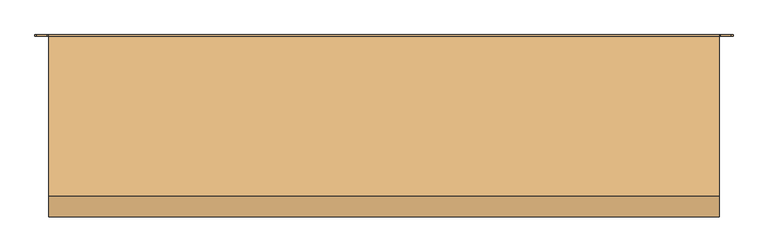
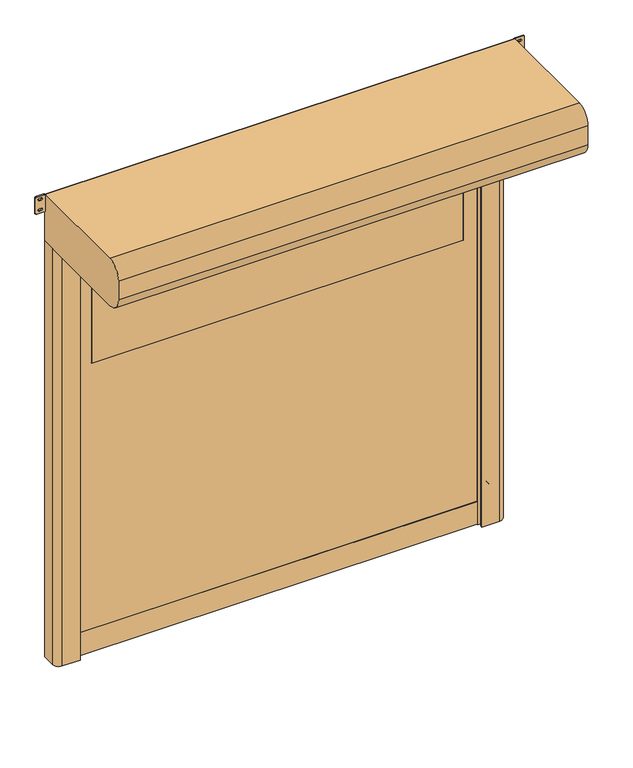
"""IFC4 building model written with IfcOpenShell, lengths in millimetres: door geometry, DO_WPB_Dynamicroll_BMP : Dynamicroll Low Headroom."""

from ifc_helpers import new_model, si_unit, point, frame, frame_2d, origin, origin_with_axes, place, context, project, spatial, polyline, circle_curve, trimmed, segment, composite_curve, outline, extrude, source, transform, mapped, element, save


def door_111b3a7b(model_context):
    return source(origin(), model_context, "Body", "SweptSolid", [
        extrude(outline(composite_curve([segment(trimmed(circle_curve(frame_2d((1416.6666667, 1064.0)), 6.0), [point((1422.6666667, 1064.0))], [point((1410.6666667, 1064.0))], False, "CARTESIAN"), True, "CONTINUOUS"), segment(polyline([(1410.6666667, 1064.0), (1410.6666667, 1082.0)]), True, "CONTINUOUS"), segment(trimmed(circle_curve(frame_2d((1416.6666667, 1082.0)), 6.0), [point((1410.6666667, 1082.0))], [point((1422.6666667, 1082.0))], False, "CARTESIAN"), True, "CONTINUOUS"), segment(polyline([(1422.6666667, 1082.0), (1422.6666667, 1064.0)]), True, "CONTINUOUS")], self_intersect=False)), frame((0.0, -20.0, 0.0), z_axis=(0.0, 1.0, 0.0), x_axis=(0.0, 0.0, 1.0)), (0.0, 0.0, 1.0), 20.0),
        extrude(outline(composite_curve([segment(trimmed(circle_curve(frame_2d((783.3333333, 1064.0)), 6.0), [point((789.3333333, 1064.0))], [point((777.3333333, 1064.0))], False, "CARTESIAN"), True, "CONTINUOUS"), segment(polyline([(777.3333333, 1064.0), (777.3333333, 1082.0)]), True, "CONTINUOUS"), segment(trimmed(circle_curve(frame_2d((783.3333333, 1082.0)), 6.0), [point((777.3333333, 1082.0))], [point((789.3333333, 1082.0))], False, "CARTESIAN"), True, "CONTINUOUS"), segment(polyline([(789.3333333, 1082.0), (789.3333333, 1064.0)]), True, "CONTINUOUS")], self_intersect=False)), frame((0.0, -20.0, 0.0), z_axis=(0.0, 1.0, 0.0), x_axis=(0.0, 0.0, 1.0)), (0.0, 0.0, 1.0), 20.0),
        extrude(outline(composite_curve([segment(trimmed(circle_curve(frame_2d((2050.0, 1064.0)), 6.0), [point((2056.0, 1064.0))], [point((2044.0, 1064.0))], False, "CARTESIAN"), True, "CONTINUOUS"), segment(polyline([(2044.0, 1064.0), (2044.0, 1082.0)]), True, "CONTINUOUS"), segment(trimmed(circle_curve(frame_2d((2050.0, 1082.0)), 6.0), [point((2044.0, 1082.0))], [point((2056.0, 1082.0))], False, "CARTESIAN"), True, "CONTINUOUS"), segment(polyline([(2056.0, 1082.0), (2056.0, 1064.0)]), True, "CONTINUOUS")], self_intersect=False)), frame((0.0, -20.0, 0.0), z_axis=(0.0, 1.0, 0.0), x_axis=(0.0, 0.0, 1.0)), (0.0, 0.0, 1.0), 20.0),
        extrude(outline(composite_curve([segment(trimmed(circle_curve(frame_2d((150.0, 1064.0)), 6.0), [point((156.0, 1064.0))], [point((144.0, 1064.0))], False, "CARTESIAN"), True, "CONTINUOUS"), segment(polyline([(144.0, 1064.0), (144.0, 1082.0)]), True, "CONTINUOUS"), segment(trimmed(circle_curve(frame_2d((150.0, 1082.0)), 6.0), [point((144.0, 1082.0))], [point((156.0, 1082.0))], False, "CARTESIAN"), True, "CONTINUOUS"), segment(polyline([(156.0, 1082.0), (156.0, 1064.0)]), True, "CONTINUOUS")], self_intersect=False)), frame((0.0, -20.0, 0.0), z_axis=(0.0, 1.0, 0.0), x_axis=(0.0, 0.0, 1.0)), (0.0, 0.0, 1.0), 20.0),
        extrude(outline(composite_curve([segment(polyline([(1422.6666667, -1064.0), (1422.6666667, -1082.0)]), True, "CONTINUOUS"), segment(trimmed(circle_curve(frame_2d((1416.6666667, -1082.0)), 6.0), [point((1422.6666667, -1082.0))], [point((1410.6666667, -1082.0))], False, "CARTESIAN"), True, "CONTINUOUS"), segment(polyline([(1410.6666667, -1082.0), (1410.6666667, -1064.0)]), True, "CONTINUOUS"), segment(trimmed(circle_curve(frame_2d((1416.6666667, -1064.0)), 6.0), [point((1410.6666667, -1064.0))], [point((1422.6666667, -1064.0))], False, "CARTESIAN"), True, "CONTINUOUS")], self_intersect=False)), frame((0.0, -20.0, 0.0), z_axis=(0.0, 1.0, 0.0), x_axis=(0.0, 0.0, 1.0)), (0.0, 0.0, 1.0), 20.0),
        extrude(outline(composite_curve([segment(polyline([(789.3333333, -1064.0), (789.3333333, -1082.0)]), True, "CONTINUOUS"), segment(trimmed(circle_curve(frame_2d((783.3333333, -1082.0)), 6.0), [point((789.3333333, -1082.0))], [point((777.3333333, -1082.0))], False, "CARTESIAN"), True, "CONTINUOUS"), segment(polyline([(777.3333333, -1082.0), (777.3333333, -1064.0)]), True, "CONTINUOUS"), segment(trimmed(circle_curve(frame_2d((783.3333333, -1064.0)), 6.0), [point((777.3333333, -1064.0))], [point((789.3333333, -1064.0))], False, "CARTESIAN"), True, "CONTINUOUS")], self_intersect=False)), frame((0.0, -20.0, 0.0), z_axis=(0.0, 1.0, 0.0), x_axis=(0.0, 0.0, 1.0)), (0.0, 0.0, 1.0), 20.0),
        extrude(outline(composite_curve([segment(polyline([(2056.0, -1064.0), (2056.0, -1082.0)]), True, "CONTINUOUS"), segment(trimmed(circle_curve(frame_2d((2050.0, -1082.0)), 6.0), [point((2056.0, -1082.0))], [point((2044.0, -1082.0))], False, "CARTESIAN"), True, "CONTINUOUS"), segment(polyline([(2044.0, -1082.0), (2044.0, -1064.0)]), True, "CONTINUOUS"), segment(trimmed(circle_curve(frame_2d((2050.0, -1064.0)), 6.0), [point((2044.0, -1064.0))], [point((2056.0, -1064.0))], False, "CARTESIAN"), True, "CONTINUOUS")], self_intersect=False)), frame((0.0, -20.0, 0.0), z_axis=(0.0, 1.0, 0.0), x_axis=(0.0, 0.0, 1.0)), (0.0, 0.0, 1.0), 20.0),
        extrude(outline(composite_curve([segment(polyline([(156.0, -1064.0), (156.0, -1082.0)]), True, "CONTINUOUS"), segment(trimmed(circle_curve(frame_2d((150.0, -1082.0)), 6.0), [point((156.0, -1082.0))], [point((144.0, -1082.0))], False, "CARTESIAN"), True, "CONTINUOUS"), segment(polyline([(144.0, -1082.0), (144.0, -1064.0)]), True, "CONTINUOUS"), segment(trimmed(circle_curve(frame_2d((150.0, -1064.0)), 6.0), [point((144.0, -1064.0))], [point((156.0, -1064.0))], False, "CARTESIAN"), True, "CONTINUOUS")], self_intersect=False)), frame((0.0, -20.0, 0.0), z_axis=(0.0, 1.0, 0.0), x_axis=(0.0, 0.0, 1.0)), (0.0, 0.0, 1.0), 20.0),
        extrude(outline(composite_curve([segment(trimmed(circle_curve(frame_2d((1526.0, 929.0)), 1.0), [point((1525.0, 929.0))], [point((1526.0, 930.0))], False, "CARTESIAN"), True, "CONTINUOUS"), segment(polyline([(1526.0, 930.0), (2024.0, 930.0)]), True, "CONTINUOUS"), segment(trimmed(circle_curve(frame_2d((2024.0, 929.0)), 1.0), [point((2024.0, 930.0))], [point((2025.0, 929.0))], False, "CARTESIAN"), True, "CONTINUOUS"), segment(polyline([(2025.0, 929.0), (2025.0, -929.0)]), True, "CONTINUOUS"), segment(trimmed(circle_curve(frame_2d((2024.0, -929.0)), 1.0), [point((2025.0, -929.0))], [point((2024.0, -930.0))], False, "CARTESIAN"), True, "CONTINUOUS"), segment(polyline([(2024.0, -930.0), (1526.0, -930.0)]), True, "CONTINUOUS"), segment(trimmed(circle_curve(frame_2d((1526.0, -929.0)), 1.0), [point((1526.0, -930.0))], [point((1525.0, -929.0))], False, "CARTESIAN"), True, "CONTINUOUS"), segment(polyline([(1525.0, -929.0), (1525.0, 929.0)]), True, "CONTINUOUS")], self_intersect=False)), frame((0.0, -68.5, 0.0), z_axis=(0.0, 1.0, 0.0), x_axis=(0.0, 0.0, 1.0)), (0.0, 0.0, 1.0), 7.0),
        extrude(outline(polyline([(120.0, -1012.0), (120.0, 1012.0), (2325.0, 1012.0), (2325.0, -1012.0), (120.0, -1012.0)]), holes=[composite_curve([segment(trimmed(circle_curve(frame_2d((1526.0, 929.0)), 1.0), [point((1526.0, 930.0))], [point((1525.0, 929.0))], True, "CARTESIAN"), True, "CONTINUOUS"), segment(polyline([(1525.0, 929.0), (1525.0, -929.0)]), True, "CONTINUOUS"), segment(trimmed(circle_curve(frame_2d((1526.0, -929.0)), 1.0), [point((1525.0, -929.0))], [point((1526.0, -930.0))], True, "CARTESIAN"), True, "CONTINUOUS"), segment(polyline([(1526.0, -930.0), (2024.0, -930.0)]), True, "CONTINUOUS"), segment(trimmed(circle_curve(frame_2d((2024.0, -929.0)), 1.0), [point((2024.0, -930.0))], [point((2025.0, -929.0))], True, "CARTESIAN"), True, "CONTINUOUS"), segment(polyline([(2025.0, -929.0), (2025.0, 929.0)]), True, "CONTINUOUS"), segment(trimmed(circle_curve(frame_2d((2024.0, 929.0)), 1.0), [point((2025.0, 929.0))], [point((2024.0, 930.0))], True, "CARTESIAN"), True, "CONTINUOUS"), segment(polyline([(2024.0, 930.0), (1526.0, 930.0)]), True, "CONTINUOUS")], self_intersect=False)]), frame((0.0, -68.5, 0.0), z_axis=(0.0, 1.0, 0.0), x_axis=(0.0, 0.0, 1.0)), (0.0, 0.0, 1.0), 7.0),
        extrude(outline(polyline([(-1012.0, -59.5), (1012.0, -59.5), (1012.0, -70.5), (-1012.0, -70.5), (-1012.0, -59.5)])), origin_with_axes(), (0.0, 0.0, 1.0), 120.0),
        extrude(outline(composite_curve([segment(trimmed(circle_curve(frame_2d((2363.75, 1230.75)), 5.75), [point((2363.75, 1225.0))], [point((2358.0, 1230.75))], False, "CARTESIAN"), True, "CONTINUOUS"), segment(polyline([(2358.0, 1230.75), (2358.0, 1268.25)]), True, "CONTINUOUS"), segment(trimmed(circle_curve(frame_2d((2363.75, 1268.25)), 5.75), [point((2358.0, 1268.25))], [point((2363.75, 1274.0))], False, "CARTESIAN"), True, "CONTINUOUS"), segment(polyline([(2363.75, 1274.0), (2444.25, 1274.0)]), True, "CONTINUOUS"), segment(trimmed(circle_curve(frame_2d((2444.25, 1268.25)), 5.75), [point((2444.25, 1274.0))], [point((2450.0, 1268.25))], False, "CARTESIAN"), True, "CONTINUOUS"), segment(polyline([(2450.0, 1268.25), (2450.0, 1230.75)]), True, "CONTINUOUS"), segment(trimmed(circle_curve(frame_2d((2444.25, 1230.75)), 5.75), [point((2450.0, 1230.75))], [point((2444.25, 1225.0))], False, "CARTESIAN"), True, "CONTINUOUS"), segment(polyline([(2444.25, 1225.0), (2363.75, 1225.0)]), True, "CONTINUOUS")], self_intersect=False), holes=[composite_curve([segment(trimmed(circle_curve(frame_2d((2431.5, 1253.75)), 5.75), [point((2437.25, 1253.75))], [point((2425.75, 1253.75))], True, "CARTESIAN"), True, "CONTINUOUS"), segment(polyline([(2425.75, 1253.75), (2425.75, 1245.25)]), True, "CONTINUOUS"), segment(trimmed(circle_curve(frame_2d((2431.5, 1245.25)), 5.75), [point((2425.75, 1245.25))], [point((2437.25, 1245.25))], True, "CARTESIAN"), True, "CONTINUOUS"), segment(polyline([(2437.25, 1245.25), (2437.25, 1253.75)]), True, "CONTINUOUS")], self_intersect=False), composite_curve([segment(trimmed(circle_curve(frame_2d((2376.5, 1253.75)), 5.75), [point((2382.25, 1253.75))], [point((2370.75, 1253.75))], True, "CARTESIAN"), True, "CONTINUOUS"), segment(polyline([(2370.75, 1253.75), (2370.75, 1245.25)]), True, "CONTINUOUS"), segment(trimmed(circle_curve(frame_2d((2376.5, 1245.25)), 5.75), [point((2370.75, 1245.25))], [point((2382.25, 1245.25))], True, "CARTESIAN"), True, "CONTINUOUS"), segment(polyline([(2382.25, 1245.25), (2382.25, 1253.75)]), True, "CONTINUOUS")], self_intersect=False)]), frame((0.0, -5.0, 0.0), z_axis=(0.0, 1.0, 0.0), x_axis=(0.0, 0.0, 1.0)), (0.0, 0.0, 1.0), 5.0),
        extrude(outline(composite_curve([segment(trimmed(circle_curve(frame_2d((2363.75, -1168.25)), 5.75), [point((2363.75, -1174.0))], [point((2358.0, -1168.25))], False, "CARTESIAN"), True, "CONTINUOUS"), segment(polyline([(2358.0, -1168.25), (2358.0, -1130.75)]), True, "CONTINUOUS"), segment(trimmed(circle_curve(frame_2d((2363.75, -1130.75)), 5.75), [point((2358.0, -1130.75))], [point((2363.75, -1125.0))], False, "CARTESIAN"), True, "CONTINUOUS"), segment(polyline([(2363.75, -1125.0), (2444.25, -1125.0)]), True, "CONTINUOUS"), segment(trimmed(circle_curve(frame_2d((2444.25, -1130.75)), 5.75), [point((2444.25, -1125.0))], [point((2450.0, -1130.75))], False, "CARTESIAN"), True, "CONTINUOUS"), segment(polyline([(2450.0, -1130.75), (2450.0, -1168.25)]), True, "CONTINUOUS"), segment(trimmed(circle_curve(frame_2d((2444.25, -1168.25)), 5.75), [point((2450.0, -1168.25))], [point((2444.25, -1174.0))], False, "CARTESIAN"), True, "CONTINUOUS"), segment(polyline([(2444.25, -1174.0), (2363.75, -1174.0)]), True, "CONTINUOUS")], self_intersect=False), holes=[composite_curve([segment(trimmed(circle_curve(frame_2d((2431.5, -1145.25)), 5.75), [point((2437.25, -1145.25))], [point((2425.75, -1145.25))], True, "CARTESIAN"), True, "CONTINUOUS"), segment(polyline([(2425.75, -1145.25), (2425.75, -1153.75)]), True, "CONTINUOUS"), segment(trimmed(circle_curve(frame_2d((2431.5, -1153.75)), 5.75), [point((2425.75, -1153.75))], [point((2437.25, -1153.75))], True, "CARTESIAN"), True, "CONTINUOUS"), segment(polyline([(2437.25, -1153.75), (2437.25, -1145.25)]), True, "CONTINUOUS")], self_intersect=False), composite_curve([segment(trimmed(circle_curve(frame_2d((2376.5, -1145.25)), 5.75), [point((2382.25, -1145.25))], [point((2370.75, -1145.25))], True, "CARTESIAN"), True, "CONTINUOUS"), segment(polyline([(2370.75, -1145.25), (2370.75, -1153.75)]), True, "CONTINUOUS"), segment(trimmed(circle_curve(frame_2d((2376.5, -1153.75)), 5.75), [point((2370.75, -1153.75))], [point((2382.25, -1153.75))], True, "CARTESIAN"), True, "CONTINUOUS"), segment(polyline([(2382.25, -1153.75), (2382.25, -1145.25)]), True, "CONTINUOUS")], self_intersect=False)]), frame((0.0, -5.0, 0.0), z_axis=(0.0, 1.0, 0.0), x_axis=(0.0, 0.0, 1.0)), (0.0, 0.0, 1.0), 5.0),
        extrude(outline(composite_curve([segment(polyline([(-1125.0, 0.0), (-1015.0, 0.0), (-1015.0, -49.2857143), (-1035.0, -55.0), (-1000.0, -55.0), (-1000.0, -61.5), (-1020.0, -61.5), (-1020.0, -68.5), (-1000.0, -68.5), (-1000.0, -75.0), (-1035.0, -75.0), (-1035.0, -90.0), (-1005.0, -90.0), (-1005.0, -100.0), (-1095.0, -100.0)]), True, "CONTINUOUS"), segment(trimmed(circle_curve(frame_2d((-1095.0, -70.0)), 30.0), [point((-1095.0, -100.0))], [point((-1125.0, -70.0))], False, "CARTESIAN"), True, "CONTINUOUS"), segment(polyline([(-1125.0, -70.0), (-1125.0, 0.0)]), True, "CONTINUOUS")], self_intersect=False)), origin_with_axes(), (0.0, 0.0, 1.0), 2200.0),
        extrude(outline(composite_curve([segment(polyline([(1125.0, 0.0), (1125.0, -70.0)]), True, "CONTINUOUS"), segment(trimmed(circle_curve(frame_2d((1095.0, -70.0)), 30.0), [point((1125.0, -70.0))], [point((1095.0, -100.0))], False, "CARTESIAN"), True, "CONTINUOUS"), segment(polyline([(1095.0, -100.0), (1005.0, -100.0), (1005.0, -90.0), (1035.0, -90.0), (1035.0, -75.0), (1000.0, -75.0), (1000.0, -68.5), (1020.0, -68.5), (1020.0, -61.5), (1000.0, -61.5), (1000.0, -55.0), (1035.0, -55.0), (1015.0, -49.2857143), (1015.0, 0.0), (1125.0, 0.0)]), True, "CONTINUOUS")], self_intersect=False)), origin_with_axes(), (0.0, 0.0, 1.0), 2200.0),
        extrude(outline(composite_curve([segment(trimmed(circle_curve(frame_2d((-5.0, 2205.0)), 5.0), [point((0.0, 2205.0))], [point((-5.0, 2200.0))], False, "CARTESIAN"), True, "CONTINUOUS"), segment(polyline([(-5.0, 2200.0), (-565.0, 2200.0)]), True, "CONTINUOUS"), segment(trimmed(circle_curve(frame_2d((-565.0, 2275.0)), 75.0), [point((-565.0, 2200.0))], [point((-640.0, 2275.0))], False, "CARTESIAN"), True, "CONTINUOUS"), segment(polyline([(-640.0, 2275.0), (-640.0, 2375.0)]), True, "CONTINUOUS"), segment(trimmed(circle_curve(frame_2d((-565.0, 2375.0)), 75.0), [point((-640.0, 2375.0))], [point((-565.0, 2450.0))], False, "CARTESIAN"), True, "CONTINUOUS"), segment(polyline([(-565.0, 2450.0), (-5.0, 2450.0)]), True, "CONTINUOUS"), segment(trimmed(circle_curve(frame_2d((-5.0, 2445.0)), 5.0), [point((-5.0, 2450.0))], [point((0.0, 2445.0))], False, "CARTESIAN"), True, "CONTINUOUS"), segment(polyline([(0.0, 2445.0), (0.0, 2205.0)]), True, "CONTINUOUS")], self_intersect=False)), frame((-1125.0, 0.0, 0.0), z_axis=(1.0, 0.0, 0.0), x_axis=(0.0, 1.0, 0.0)), (0.0, 0.0, 1.0), 2350.0),
    ])


if __name__ == "__main__":
    model = new_model("IFC4")
    model_context = context("Model", 3, world=origin())
    ifc_project = project(units=[si_unit("LENGTHUNIT", "METRE", prefix="MILLI")], contexts=[model_context])
    site = spatial("IfcSite", under=ifc_project)
    building = spatial("IfcBuilding", under=site)
    placement = place(None, origin())
    door_shape = door_111b3a7b(model_context)
    element("IfcDoor", 1, ObjectType="DO_WPB_Dynamicroll_BMP : Dynamicroll Low Headroom", at=placement, inside=building, context=model_context, shape_type="MappedRepresentation", body=[
        mapped(door_shape, transform((0.0, 0.0, 0.0), x_axis=(1.0, 0.0, 0.0), y_axis=(0.0, 1.0, 0.0), z_axis=(0.0, 0.0, 1.0))),
    ])
    save(model, "model.ifc")
